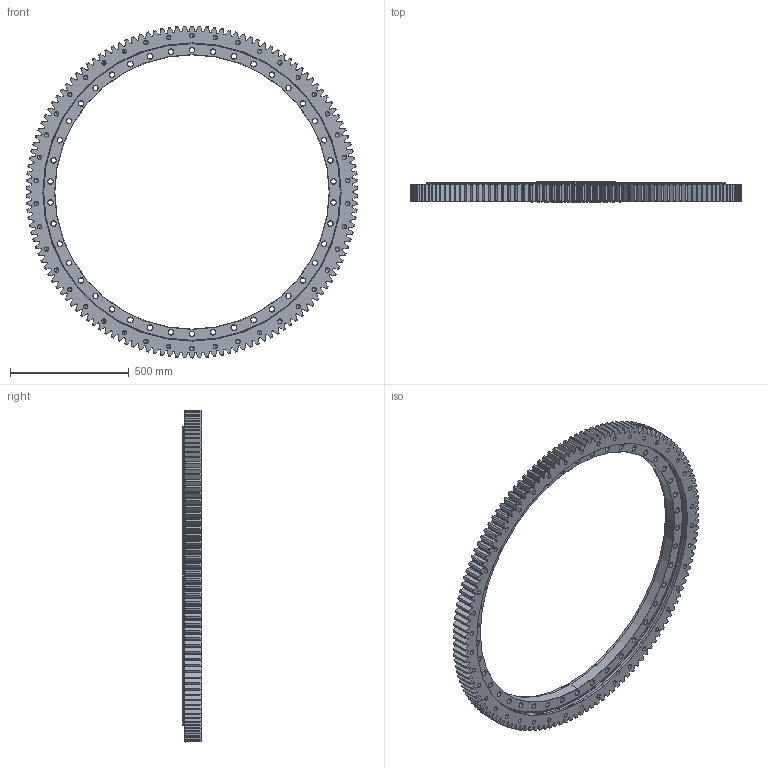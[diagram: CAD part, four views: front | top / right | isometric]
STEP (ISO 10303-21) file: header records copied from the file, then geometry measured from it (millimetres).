
FILE_DESCRIPTION (( 'STEP AP203' ), '1' );
FILE_NAME ('B2125-2-1398CA MONTAJ STEP.STEP', '2018-03-28T07:17:11', ( 'Harun' ), ( '' ), 'SwSTEP 2.0', 'SolidWorks 2014', '' );
FILE_SCHEMA (( 'CONFIG_CONTROL_DESIGN' ));
Length unit declared in the file: millimetre
Products named in the file (3): B2125-2-1398CA DR; B2125-2-1398CA 嵬; B2125-2-1398CA MONTAJ STEP
Assembly tree (2 placements, depth 2):
  B2125-2-1398CA MONTAJ STEP
    B2125-2-1398CA DR
    B2125-2-1398CA 嵬
Bounding box: 1397.8 x 82 x 1398 mm (x, y, z)
Volume: 24833686.5 mm3; surface area: 2608158.1 mm2
Topology: 2 solids, 2 shells, 1637 faces, 4598 edges, 2929 vertices
Faces by surface type: cylinder 657, cone 542, plane 424, torus 14
Entity records: 53490 total; most frequent: CARTESIAN_POINT 10741, DIRECTION 9043, ORIENTED_EDGE 9028, EDGE_CURVE 4514, AXIS2_PLACEMENT_3D 3439, VERTEX_POINT 2929, VECTOR 2165, LINE 2165
